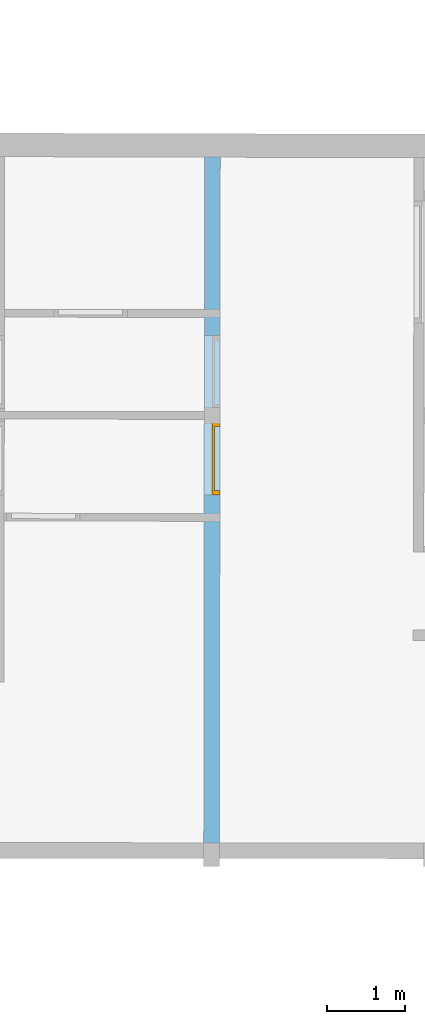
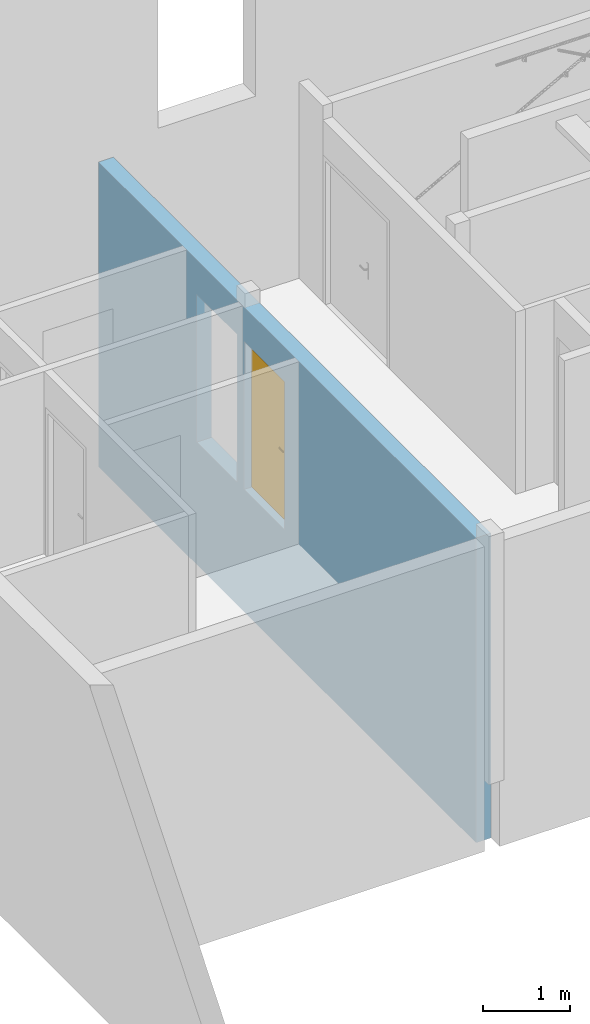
# One storey, part 17 of 24: 1 door, 4 openings, plus 1 element that does not belong to this part.
"""IFC2X3 building model written with IfcOpenShell, lengths in metres."""

from ifc_helpers import new_model, entity, si_unit, converted_unit, derived_unit, direction, frame, frame_2d, origin, place, context, subcontext, project, spatial, polyline, rectangle, outline, extrude, faceted_brep, source, transform, mapped, material, material_list, layer, layer_set, layer_usage, type_object, type_shapes, element, fill, save


model = new_model("IFC2X3")

# Units and contexts
model_context = context("Model", 3, precision=1e-05, world=origin(), true_north=direction((6.123233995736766e-17, 1.0)))
body_context = subcontext(model_context, "Body", "Model", "MODEL_VIEW")
ifc_project = project(units=[si_unit("LENGTHUNIT", "METRE"), si_unit("AREAUNIT", "SQUARE_METRE"), converted_unit("PLANEANGLEUNIT", "DEGREE", entity("IfcPlaneAngleMeasure", 0.017453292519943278), si_unit("PLANEANGLEUNIT", "RADIAN"), dimensions=[0, 0, 0, 0, 0, 0, 0]), derived_unit("THERMALTRANSMITTANCEUNIT", [(si_unit("MASSUNIT", "GRAM", prefix="KILO"), 1), (si_unit("THERMODYNAMICTEMPERATUREUNIT", "KELVIN"), -1), (si_unit("TIMEUNIT", "SECOND"), -3)])], contexts=[model_context])

# Site, building, storey
site_placement = place(None, frame((1253.6752467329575, 2072.143113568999, 91.49999999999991), z_axis=(0.0, 0.0, 1.0), x_axis=(0.7237211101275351, 0.6900925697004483, 0.0)))
site = spatial("IfcSite", under=ifc_project, at=site_placement, Name="Surface", CompositionType="ELEMENT")
building_placement = place(site_placement, origin())
building = spatial("IfcBuilding", under=site, at=building_placement, CompositionType="ELEMENT")
storey_placement = place(building_placement, frame((0.0, 0.0, -7.049999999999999)))
storey = spatial("IfcBuildingStorey", under=building, at=storey_placement, Name="R-1", CompositionType="ELEMENT", Elevation=-7.049999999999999)

# Wall, openings, door
ifc_material_1 = material(Name="Béton - Béton coulé sur place")
ifc_layer = layer(ifc_material_1, 0.2)
ifc_layer_set = layer_set([ifc_layer], Name="Mur de base:MUR 20")
ifc_layer_usage = layer_usage(ifc_layer_set, "AXIS2", "NEGATIVE", 0.1)
wall_type = type_object("IfcWallType", Name="Mur de base:MUR 20", PredefinedType="STANDARD", material=ifc_layer_set)
wall_placement = place(storey_placement, frame((170.03077512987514, 23.668757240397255, -1.0), z_axis=(0.0, 0.0, 1.0), x_axis=(-0.6909838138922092, -0.7228702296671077, 0.0)))
wall = element("IfcWallStandardCase", 1, at=wall_placement, inside=storey, type_object=wall_type, material=ifc_layer_usage, Name="Mur de base:MUR 20", ObjectType="Mur de base:MUR 20", context=body_context, shape_type="SweptSolid", body=[
    extrude(outline(polyline([(-0.10000000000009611, -4.371726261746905), (0.09999999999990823, -4.371726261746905), (0.1000000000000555, 4.3715890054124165), (-0.09999999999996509, 4.371863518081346), (-0.10000000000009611, -4.371726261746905)])), frame((4.371863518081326, 0.0, 0.0), z_axis=(0.0, 0.0, 1.0), x_axis=(0.0, 1.0, 0.0)), (0.0, 0.0, 1.0), 4.299999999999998),
])
opening_1_placement = place(storey_placement, frame((170.03077512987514, 23.668757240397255, -1.0), z_axis=(0.0, 0.0, 1.0), x_axis=(-0.6909838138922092, -0.7228702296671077, 0.0)))
element("IfcOpeningElement", 2, at=opening_1_placement, cuts=wall, Name="Mur de base:MUR 20:1", ObjectType="Opening", context=body_context, shape_type="SweptSolid", body=[
    extrude(rectangle(XDim=2.0850000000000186, YDim=0.9349999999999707, at=frame_2d((-5.551115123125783e-16, -1.582067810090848e-15), x_axis=(1.0, 0.0))), frame((3.8435897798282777, 0.09999999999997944, 2.7725000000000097), z_axis=(0.0, -1.0, 0.0), x_axis=(0.0, 0.0, 1.0)), (0.0, 0.0, 1.0), 0.19999999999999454),
])
opening_2_placement = place(storey_placement, frame((170.03077512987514, 23.668757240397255, -1.0), z_axis=(0.0, 0.0, 1.0), x_axis=(-0.6909838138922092, -0.7228702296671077, 0.0)))
element("IfcOpeningElement", 3, at=opening_2_placement, cuts=wall, Name="Mur de base:MUR 20:2", ObjectType="Opening", context=body_context, shape_type="SweptSolid", body=[
    extrude(rectangle(XDim=2.0850000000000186, YDim=0.9350000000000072, at=frame_2d((-1.6681100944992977e-14, 5.551115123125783e-16), x_axis=(0.0, 1.0))), frame((2.7435897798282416, 0.09999999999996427, 2.772500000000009), z_axis=(0.0, -1.0, 0.0), x_axis=(1.0, 0.0, 0.0)), (0.0, 0.0, 1.0), 0.1999999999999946),
])
opening_3_placement = place(wall_placement, frame((3.2110897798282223, 0.10000000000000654, 1.7299999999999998)))
element("IfcOpeningElement", 4, at=opening_3_placement, cuts=wall, Name="OMD_Porte 1V tunnel:80x204:1", ObjectType="Opening", context=body_context, shape_type="SweptSolid", body=[
    extrude(rectangle(XDim=2.0850000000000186, YDim=0.9349999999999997, at=frame_2d((1.0425000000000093, 0.46749999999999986), x_axis=(1.0, 0.0))), frame((0.0, 0.0, 0.0), z_axis=(0.0, -1.0, 0.0), x_axis=(0.0, 0.0, 1.0)), (0.0, 0.0, 1.0), 0.19999999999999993),
])
opening_4_placement = place(wall_placement, frame((4.311089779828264, 0.1000000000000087, 1.7299999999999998)))
opening_4 = element("IfcOpeningElement", 5, at=opening_4_placement, cuts=wall, Name="OMD_Porte 1V tunnel:80x204:1", ObjectType="Opening", context=body_context, shape_type="SweptSolid", body=[
    extrude(rectangle(XDim=2.0850000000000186, YDim=0.9349999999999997, at=frame_2d((1.0425000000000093, 0.46749999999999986), x_axis=(1.0, 0.0))), frame((0.0, 0.0, 0.0), z_axis=(0.0, -1.0, 0.0), x_axis=(0.0, 0.0, 1.0)), (0.0, 0.0, 1.0), 0.19999999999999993),
])
ifc_material_2 = material(Name="Porte - Poignée")
ifc_material_3 = material(Name="OMD_Peinture mur")
ifc_material_4 = material(Name="OMD_Bois")
ifc_material_list = material_list([ifc_material_2, ifc_material_3, ifc_material_4])
door_style = type_object("IfcDoorStyle", Name="OMD_Porte 1V tunnel:80x204", ConstructionType="NOTDEFINED", OperationType="NOTDEFINED", ParameterTakesPrecedence=False, Sizeable=False, material=ifc_material_list)
shared_shape = source(origin(), body_context, "Body", "Brep", [
    faceted_brep([(0.822025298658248, 0.13500000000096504, 1.0077804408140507), (0.8179747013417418, 0.13500000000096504, 1.007780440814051), (0.8139999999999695, 0.13500000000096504, 1.00699999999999), (0.8139999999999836, 0.13500000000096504, 0.9930000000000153), (0.8179747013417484, 0.13500000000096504, 0.9922195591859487), (0.8220252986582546, 0.13500000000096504, 0.9922195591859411), (0.826000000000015, 0.13500000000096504, 0.9929999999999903), (0.8260000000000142, 0.13500000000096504, 1.006999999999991), (0.8139999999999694, 0.15748520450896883, 1.00699999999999), (0.8139999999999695, 0.15748520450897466, 0.9930000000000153), (0.8179747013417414, 0.15913157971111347, 1.007780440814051), (0.8220252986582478, 0.1608093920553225, 1.0077804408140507), (0.8058389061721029, 0.17699578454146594, 1.0077804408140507), (0.8041610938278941, 0.17294518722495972, 1.007780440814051), (0.7207931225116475, 0.1729451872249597, 1.0077804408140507), (0.7191153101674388, 0.17699578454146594, 1.0077804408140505), (0.7114510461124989, 0.16933152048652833, 1.0077804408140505), (0.7143152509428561, 0.16646731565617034, 1.0077804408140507), (0.826000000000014, 0.16245576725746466, 1.006999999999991), (0.826000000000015, 0.16245576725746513, 0.9929999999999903), (0.8220252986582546, 0.16080939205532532, 0.9922195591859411), (0.8179747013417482, 0.15913157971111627, 0.9922195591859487), (0.8041610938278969, 0.17294518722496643, 0.9922195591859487), (0.8058389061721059, 0.1769957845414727, 0.9922195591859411), (0.7191153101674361, 0.1769957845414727, 0.9922195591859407), (0.7207931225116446, 0.17294518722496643, 0.9922195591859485), (0.7143152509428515, 0.16646731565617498, 0.9922195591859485), (0.7114510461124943, 0.1693315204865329, 0.9922195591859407), (0.8025147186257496, 0.16897048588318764, 1.00699999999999), (0.8025147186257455, 0.1689704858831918, 0.9930000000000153), (0.807485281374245, 0.18097048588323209, 1.006999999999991), (0.8074852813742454, 0.1809704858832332, 0.9929999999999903), (0.7624771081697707, 0.16897048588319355, 1.0069999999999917), (0.7224394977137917, 0.16897048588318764, 1.0069999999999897), (0.7224394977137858, 0.16897048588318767, 0.9930000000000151), (0.76247712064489, 0.16897048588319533, 0.9930000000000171), (0.7624771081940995, 0.1751249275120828, 1.0078781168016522), (0.7573994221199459, 0.18097048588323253, 1.0069999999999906), (0.7174689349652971, 0.18097048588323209, 1.0069999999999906), (0.7675547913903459, 0.18097048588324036, 0.9929999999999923), (0.7174689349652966, 0.1809704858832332, 0.99299999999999), (0.762477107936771, 0.17512492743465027, 0.9921218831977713), (0.7086405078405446, 0.1721420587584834, 1.0069999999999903), (0.7086405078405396, 0.17214205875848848, 0.9929999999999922), (0.7171257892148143, 0.16365677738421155, 0.9930000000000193), (0.71712578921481, 0.16365677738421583, 1.0069999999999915)], [[[0, 1, 2, 3, 4, 5, 6, 7]], [[8, 9, 3, 2]], [[1, 10, 8, 2]], [[1, 0, 11, 12, 13, 10]], [[14, 15, 16, 17]], [[7, 18, 11, 0]], [[18, 7, 6, 19]], [[6, 5, 20, 19]], [[5, 4, 21, 22, 23, 20]], [[24, 25, 26, 27]], [[4, 3, 9, 21]], [[28, 29, 9, 8]], [[8, 10, 13, 28]], [[18, 30, 12, 11]], [[31, 30, 18, 19]], [[19, 20, 23, 31]], [[21, 9, 29, 22]], [[29, 28, 32, 33, 34, 35]], [[36, 32, 13]], [[37, 38, 15]], [[37, 12, 30]], [[36, 12, 37]], [[14, 32, 36]], [[36, 15, 14]], [[28, 13, 32]], [[32, 14, 33]], [[12, 36, 13]], [[15, 36, 37]], [[30, 31, 39, 40, 38, 37]], [[23, 41, 39]], [[24, 39, 41]], [[39, 31, 23]], [[39, 24, 40]], [[22, 35, 41]], [[41, 23, 22]], [[41, 35, 25]], [[35, 22, 29]], [[34, 25, 35]], [[24, 41, 25]], [[17, 16, 42, 43, 27, 26, 44, 45]], [[45, 44, 34, 33]], [[33, 14, 17, 45]], [[15, 38, 42, 16]], [[43, 42, 38, 40]], [[24, 27, 43, 40]], [[34, 44, 26, 25]]]),
    faceted_brep([(0.8179747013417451, 0.09500000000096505, 1.007780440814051), (0.8220252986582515, 0.09500000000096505, 1.0077804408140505), (0.8260000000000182, 0.09500000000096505, 1.0069999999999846), (0.826000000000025, 0.09500000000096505, 0.9929999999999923), (0.8220252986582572, 0.09500000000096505, 0.992219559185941), (0.8179747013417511, 0.09500000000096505, 0.9922195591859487), (0.8139999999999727, 0.09500000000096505, 0.9930000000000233), (0.8139999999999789, 0.09500000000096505, 1.006999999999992), (0.8220252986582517, 0.06899542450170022, 1.0077804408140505), (0.8260000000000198, 0.0673490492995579, 1.0069999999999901), (0.8179747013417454, 0.07067323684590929, 1.007780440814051), (0.8042986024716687, 0.0569971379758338, 1.007780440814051), (0.8059764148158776, 0.05294654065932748, 1.0077804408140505), (0.7191424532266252, 0.0529465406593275, 1.0077804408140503), (0.7208202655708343, 0.0569971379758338, 1.0077804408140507), (0.7143423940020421, 0.0634750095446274, 1.0077804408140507), (0.7114781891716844, 0.06061080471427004, 1.0077804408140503), (0.8139999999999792, 0.0723196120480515, 1.006999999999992), (0.8139999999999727, 0.07231961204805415, 0.9930000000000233), (0.8179747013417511, 0.07067323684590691, 0.9922195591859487), (0.8220252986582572, 0.06899542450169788, 0.992219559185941), (0.8059764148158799, 0.05294654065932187, 0.992219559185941), (0.8042986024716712, 0.05699713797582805, 0.9922195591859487), (0.720820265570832, 0.056997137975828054, 0.9922195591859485), (0.7191424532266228, 0.05294654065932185, 0.9922195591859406), (0.7114781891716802, 0.06061080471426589, 0.9922195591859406), (0.714342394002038, 0.06347500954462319, 0.9922195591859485), (0.826000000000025, 0.06734904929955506, 0.9929999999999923), (0.8076227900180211, 0.048971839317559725, 1.0069999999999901), (0.8026522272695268, 0.06097183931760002, 1.006999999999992), (0.8026522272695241, 0.060971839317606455, 0.9930000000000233), (0.8076227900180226, 0.04897183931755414, 0.9929999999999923), (0.7625594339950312, 0.054817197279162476, 1.0078781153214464), (0.7676923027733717, 0.0489718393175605, 1.0069999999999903), (0.7174960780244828, 0.04897183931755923, 1.00699999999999), (0.7625594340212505, 0.06097183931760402, 1.0069999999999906), (0.7224666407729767, 0.06097183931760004, 1.0069999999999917), (0.7625594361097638, 0.06097183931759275, 0.9930000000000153), (0.7224666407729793, 0.060971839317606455, 0.9930000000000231), (0.7625594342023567, 0.05481719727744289, 0.9921218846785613), (0.7574265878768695, 0.04897183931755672, 0.9929999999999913), (0.7174960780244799, 0.04897183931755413, 0.9929999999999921), (0.7171529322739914, 0.06628554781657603, 0.9930000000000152), (0.7086676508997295, 0.057800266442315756, 0.9929999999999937), (0.70866765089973, 0.057800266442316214, 1.0069999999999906), (0.7171529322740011, 0.06628554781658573, 1.0069999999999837)], [[[0, 1, 2, 3, 4, 5, 6, 7]], [[2, 1, 8, 9]], [[1, 0, 10, 11, 12, 8]], [[13, 14, 15, 16]], [[0, 7, 17, 10]], [[18, 17, 7, 6]], [[5, 19, 18, 6]], [[5, 4, 20, 21, 22, 19]], [[23, 24, 25, 26]], [[3, 27, 20, 4]], [[9, 27, 3, 2]], [[9, 8, 12, 28]], [[10, 17, 29, 11]], [[30, 29, 17, 18]], [[18, 19, 22, 30]], [[20, 27, 31, 21]], [[28, 31, 27, 9]], [[12, 32, 33]], [[13, 33, 32]], [[33, 28, 12]], [[33, 13, 34]], [[11, 35, 32]], [[32, 12, 11]], [[32, 35, 14]], [[35, 11, 29]], [[36, 14, 35]], [[13, 32, 14]], [[29, 30, 37, 38, 36, 35]], [[39, 37, 22]], [[40, 41, 24]], [[40, 21, 31]], [[39, 21, 40]], [[23, 37, 39]], [[39, 24, 23]], [[30, 22, 37]], [[37, 23, 38]], [[21, 39, 22]], [[24, 39, 40]], [[31, 28, 33, 34, 41, 40]], [[42, 26, 25, 43, 44, 16, 15, 45]], [[13, 16, 44, 34]], [[36, 45, 15, 14]], [[42, 45, 36, 38]], [[38, 23, 26, 42]], [[24, 41, 43, 25]], [[44, 43, 41, 34]]]),
    faceted_brep([(0.819999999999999, 0.1300000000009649, 0.8646410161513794), (0.8303527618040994, 0.13000000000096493, 0.866003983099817), (0.8399999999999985, 0.13000000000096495, 0.8700000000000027), (0.8399999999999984, 0.13000000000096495, 1.0800000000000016), (0.8303527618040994, 0.13000000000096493, 1.0839960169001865), (0.8199999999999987, 0.1300000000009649, 1.0853589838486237), (0.8096472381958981, 0.13000000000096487, 1.0839960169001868), (0.7999999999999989, 0.13000000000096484, 1.0800000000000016), (0.7999999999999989, 0.13000000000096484, 0.8700000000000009), (0.8096472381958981, 0.13000000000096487, 0.8660039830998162), (0.8199999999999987, 0.1350000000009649, 1.0853589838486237), (0.8303527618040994, 0.13500000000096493, 1.0839960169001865), (0.8399999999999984, 0.135000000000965, 1.0800000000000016), (0.8399999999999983, 0.135000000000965, 0.8700000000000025), (0.8303527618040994, 0.13500000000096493, 0.866003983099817), (0.819999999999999, 0.1350000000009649, 0.8646410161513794), (0.8096472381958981, 0.13500000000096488, 0.8660039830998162), (0.7999999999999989, 0.13500000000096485, 0.8700000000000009), (0.7999999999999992, 0.13500000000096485, 1.0800000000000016), (0.8096472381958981, 0.13500000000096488, 1.0839960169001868)], [[[0, 1, 2, 3, 4, 5, 6, 7, 8, 9]], [[10, 11, 12, 13, 14, 15, 16, 17, 18, 19]], [[6, 19, 18, 7]], [[5, 10, 19, 6]], [[4, 11, 10, 5]], [[4, 3, 12, 11]], [[12, 3, 2, 13]], [[1, 14, 13, 2]], [[0, 15, 14, 1]], [[9, 16, 15, 0]], [[9, 8, 17, 16]], [[17, 8, 7, 18]]]),
    faceted_brep([(0.8199999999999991, 0.09500000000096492, 0.8646410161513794), (0.8303527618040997, 0.09500000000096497, 0.8660039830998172), (0.8399999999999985, 0.09500000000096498, 0.8700000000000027), (0.8399999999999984, 0.09500000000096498, 1.0800000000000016), (0.8303527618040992, 0.09500000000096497, 1.0839960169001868), (0.8199999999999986, 0.09500000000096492, 1.0853589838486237), (0.809647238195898, 0.0950000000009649, 1.0839960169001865), (0.7999999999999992, 0.09500000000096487, 1.0800000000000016), (0.7999999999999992, 0.09500000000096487, 0.8700000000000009), (0.8096472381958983, 0.0950000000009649, 0.8660039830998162), (0.8399999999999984, 0.10000000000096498, 1.0800000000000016), (0.8399999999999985, 0.10000000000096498, 0.8700000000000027), (0.8303527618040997, 0.10000000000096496, 0.8660039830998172), (0.8199999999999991, 0.10000000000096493, 0.8646410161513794), (0.8096472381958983, 0.10000000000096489, 0.8660039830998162), (0.7999999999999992, 0.10000000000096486, 0.8700000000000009), (0.7999999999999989, 0.10000000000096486, 1.0800000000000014), (0.809647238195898, 0.10000000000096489, 1.0839960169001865), (0.8199999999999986, 0.10000000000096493, 1.0853589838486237), (0.8303527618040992, 0.10000000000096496, 1.0839960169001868)], [[[0, 1, 2, 3, 4, 5, 6, 7, 8, 9]], [[10, 11, 12, 13, 14, 15, 16, 17, 18, 19]], [[1, 12, 11, 2]], [[0, 13, 12, 1]], [[9, 14, 13, 0]], [[9, 8, 15, 14]], [[15, 8, 7, 16]], [[6, 17, 16, 7]], [[5, 18, 17, 6]], [[4, 19, 18, 5]], [[4, 3, 10, 19]], [[10, 3, 2, 11]]]),
    faceted_brep([(0.8900000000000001, 0.13000000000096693, 0.0), (0.8900000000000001, 0.10000000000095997, 0.0), (0.0450000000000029, 0.10000000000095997, 0.0), (0.0450000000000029, 0.13000000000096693, 0.0), (0.8900000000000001, 0.13000000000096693, 2.04), (0.8900000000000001, 0.10000000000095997, 2.04), (0.0450000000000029, 0.10000000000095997, 2.04), (0.0450000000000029, 0.13000000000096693, 2.04)], [[[0, 1, 2, 3]], [[4, 5, 1, 0]], [[5, 6, 2, 1]], [[6, 7, 3, 2]], [[7, 4, 0, 3]], [[4, 7, 6, 5]]]),
    faceted_brep([(0.9350000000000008, 0.10000000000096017, 0.0), (0.8900000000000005, 0.1000000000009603, 0.0), (0.8900000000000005, 0.13000000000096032, 0.0), (0.8750000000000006, 0.13000000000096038, 0.0), (0.8750000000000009, 0.20000000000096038, 0.0), (0.935000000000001, 0.20000000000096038, 0.0), (0.9350000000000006, 0.10000000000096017, 2.0850000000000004), (0.0, 0.10000000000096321, 2.0850000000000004), (0.0, 0.10000000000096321, 0.0), (0.04500000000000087, 0.10000000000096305, 0.0), (0.045000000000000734, 0.10000000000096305, 2.04), (0.8900000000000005, 0.1000000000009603, 2.0400000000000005), (0.8900000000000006, 0.13000000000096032, 2.0400000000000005), (0.045000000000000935, 0.13000000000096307, 2.04), (0.045000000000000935, 0.13000000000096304, 0.0), (0.060000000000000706, 0.130000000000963, 0.0), (0.06000000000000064, 0.13000000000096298, 2.0250000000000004), (0.8750000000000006, 0.13000000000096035, 2.0250000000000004), (0.875000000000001, 0.20000000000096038, 2.0250000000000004), (0.060000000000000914, 0.20000000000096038, 2.0250000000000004), (0.060000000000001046, 0.20000000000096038, 0.0), (0.0, 0.2000000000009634, 0.0), (0.0, 0.2000000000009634, 2.0850000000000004), (0.9350000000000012, 0.20000000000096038, 2.0850000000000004)], [[[0, 1, 2, 3, 4, 5]], [[1, 0, 6, 7, 8, 9, 10, 11]], [[2, 1, 11, 12]], [[3, 2, 12, 13, 14, 15, 16, 17]], [[4, 3, 17, 18]], [[5, 4, 18, 19, 20, 21, 22, 23]], [[0, 5, 23, 6]], [[7, 22, 21, 8]], [[8, 21, 20, 15, 14, 9]], [[13, 10, 9, 14]], [[19, 16, 15, 20]], [[12, 11, 10, 13]], [[18, 17, 16, 19]], [[6, 23, 22, 7]]]),
])
type_shapes(door_style, [shared_shape])
door_placement = place(opening_4_placement, frame((-0.9349999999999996, -0.19999999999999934, 0.0)))
door = element("IfcDoor", 6, at=door_placement, inside=storey, type_object=door_style, material=ifc_material_list, Name="OMD_Porte 1V tunnel:80x204", ObjectType="OMD_Porte 1V tunnel:80x204", OverallHeight=2.0850000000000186, OverallWidth=0.9350000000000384, context=body_context, shape_type="MappedRepresentation", body=[
    mapped(shared_shape, transform((0.0, 0.0, 0.0), scale=1.0)),
])
fill(opening_4, door)

save(model, "model.ifc")
